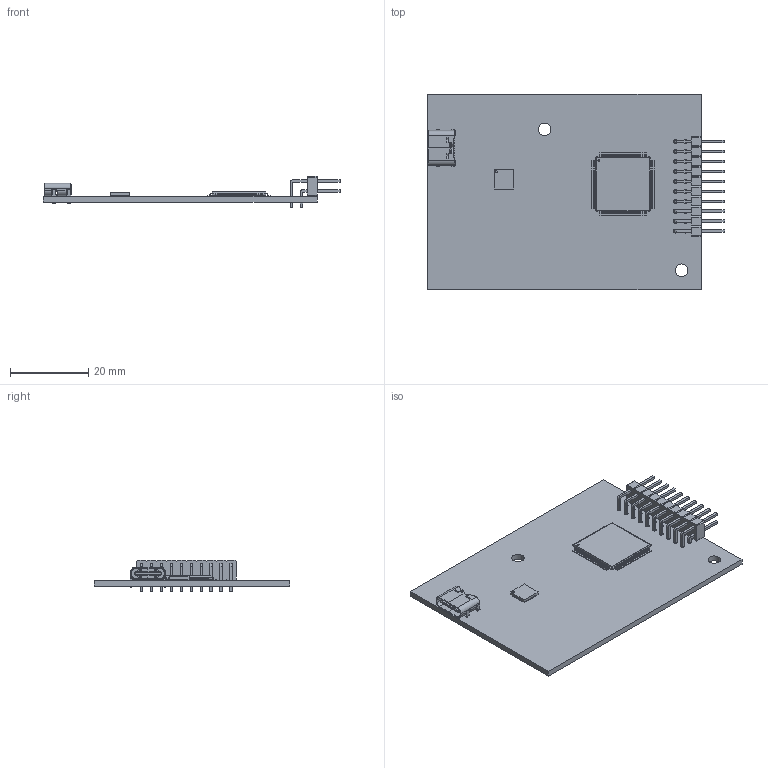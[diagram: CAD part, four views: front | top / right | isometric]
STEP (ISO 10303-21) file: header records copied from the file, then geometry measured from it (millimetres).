
FILE_DESCRIPTION(('KiCad electronic assembly'),'2;1');
FILE_NAME('Main.step','2025-10-19T23:34:29',('Pcbnew'),('Kicad'), 'Open CASCADE STEP processor 7.8','KiCad to STEP converter','Unknown' );
FILE_SCHEMA(('AUTOMOTIVE_DESIGN { 1 0 10303 214 1 1 1 1 }'));
Length unit declared in the file: millimetre
Products named in the file (6): Main 1; TQFP-100_14x14mm_P0.5mm; PinHeader_2x10_P2.54mm_Horizontal; QFN-32-1EP_5x5mm_P0.5mm_EP3.3x3.3mm; USB_C_Receptacle_GCT_USB4125-xx-x-0190_6P_TopMnt_Horizontal; Main_PCB
Assembly tree (5 placements, depth 2):
  Main 1
    TQFP-100_14x14mm_P0.5mm
    PinHeader_2x10_P2.54mm_Horizontal
    QFN-32-1EP_5x5mm_P0.5mm_EP3.3x3.3mm
    USB_C_Receptacle_GCT_USB4125-xx-x-0190_6P_TopMnt_Horizontal
    Main_PCB
Bounding box: 76 x 50 x 8.08 mm (x, y, z)
Volume: 5985.4 mm3; surface area: 9652.6 mm2
Topology: 20 solids, 20 shells, 2826 faces, 7463 edges, 4718 vertices
Faces by surface type: plane 2090, cylinder 602, bspline 132, cone 2
Full cylindrical faces by diameter (mm): 0.5 x2, 0.8 x2, 1 x20, 3.2 x2
Entity records: 108255 total; most frequent: CARTESIAN_POINT 18274, ORIENTED_EDGE 14942, DIRECTION 14019, EDGE_CURVE 7463, LINE 6195, VECTOR 6195, VERTEX_POINT 4718, AXIS2_PLACEMENT_3D 3912
